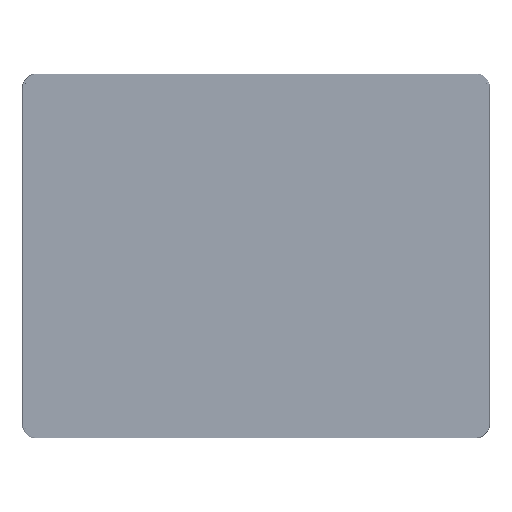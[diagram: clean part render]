
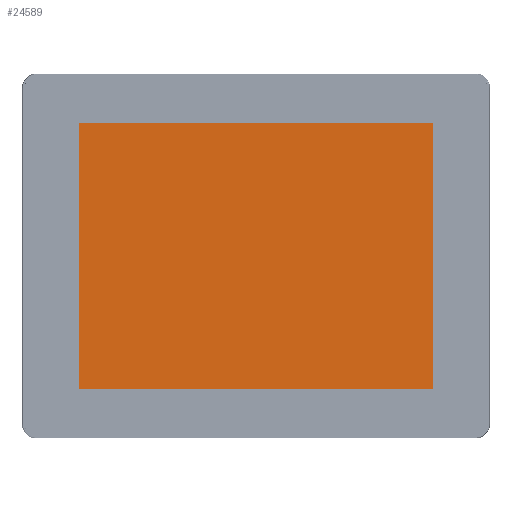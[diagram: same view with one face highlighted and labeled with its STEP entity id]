
A CAD part, top view. The second image highlights one B-rep face of the part: STEP entity #24589.
In plain terms, the highlighted planar face has unit normal (0, 0, 1) as drawn and (0, 1, 0) by its records, which use the part's own axes.
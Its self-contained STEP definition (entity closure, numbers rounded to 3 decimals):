
#13238 = EDGE_CURVE ( 'NONE', #267799, #229303, #139335, .T. ) ;
#23989 = FACE_OUTER_BOUND ( 'NONE', #291346, .T. ) ;
#24589 = ADVANCED_FACE ( 'NONE', ( #23989 ), #231535, .T. ) ;
#71760 = EDGE_CURVE ( 'NONE', #214914, #168105, #225215, .T. ) ;
#77366 = LINE ( 'NONE', #269297, #179542 ) ;
#78386 = AXIS2_PLACEMENT_3D ( 'NONE', #118458, #284104, #287146 ) ;
#87019 = ORIENTED_EDGE ( 'NONE', *, *, #13238, .F. ) ;
#106068 = CARTESIAN_POINT ( 'NONE',  ( 122.1, 0.18, 74.23 ) ) ;
#116069 = DIRECTION ( 'NONE',  ( 1., 0., 0. ) ) ;
#117514 = CARTESIAN_POINT ( 'NONE',  ( 98.8, 0.18, -74.23 ) ) ;
#117599 = CARTESIAN_POINT ( 'NONE',  ( 122.1, 0.18, -74.23 ) ) ;
#118458 = CARTESIAN_POINT ( 'NONE',  ( 122.1, 0.18, -93.35 ) ) ;
#119646 = LINE ( 'NONE', #235803, #156125 ) ;
#126870 = DIRECTION ( 'NONE',  ( 0., 0., -1. ) ) ;
#128480 = CARTESIAN_POINT ( 'NONE',  ( -98.8, 0.18, -74.23 ) ) ;
#138052 = ORIENTED_EDGE ( 'NONE', *, *, #301450, .F. ) ;
#139335 = LINE ( 'NONE', #117599, #237965 ) ;
#156125 = VECTOR ( 'NONE', #169104, 1000. ) ;
#168105 = VERTEX_POINT ( 'NONE', #256785 ) ;
#169104 = DIRECTION ( 'NONE',  ( 0., 0., 1. ) ) ;
#179542 = VECTOR ( 'NONE', #126870, 1000. ) ;
#214914 = VERTEX_POINT ( 'NONE', #259739 ) ;
#225215 = LINE ( 'NONE', #106068, #294429 ) ;
#228083 = ORIENTED_EDGE ( 'NONE', *, *, #71760, .F. ) ;
#229303 = VERTEX_POINT ( 'NONE', #117514 ) ;
#231535 = PLANE ( 'NONE',  #78386 ) ;
#235803 = CARTESIAN_POINT ( 'NONE',  ( 98.8, 0.18, -93.35 ) ) ;
#237965 = VECTOR ( 'NONE', #116069, 1000. ) ;
#241032 = EDGE_CURVE ( 'NONE', #168105, #267799, #77366, .T. ) ;
#250051 = DIRECTION ( 'NONE',  ( -1., 0., 0. ) ) ;
#252307 = ORIENTED_EDGE ( 'NONE', *, *, #241032, .F. ) ;
#256785 = CARTESIAN_POINT ( 'NONE',  ( -98.8, 0.18, 74.23 ) ) ;
#259739 = CARTESIAN_POINT ( 'NONE',  ( 98.8, 0.18, 74.23 ) ) ;
#267799 = VERTEX_POINT ( 'NONE', #128480 ) ;
#269297 = CARTESIAN_POINT ( 'NONE',  ( -98.8, 0.18, -93.35 ) ) ;
#284104 = DIRECTION ( 'NONE',  ( 0., 1., 0. ) ) ;
#287146 = DIRECTION ( 'NONE',  ( 0., 0., 1. ) ) ;
#291346 = EDGE_LOOP ( 'NONE', ( #138052, #87019, #252307, #228083 ) ) ;
#294429 = VECTOR ( 'NONE', #250051, 1000. ) ;
#301450 = EDGE_CURVE ( 'NONE', #229303, #214914, #119646, .T. ) ;
